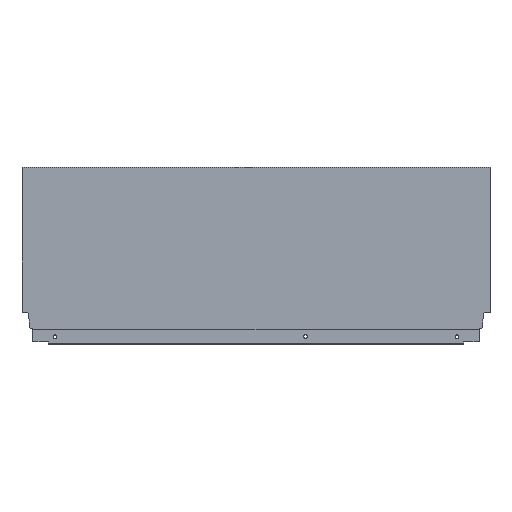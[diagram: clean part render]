
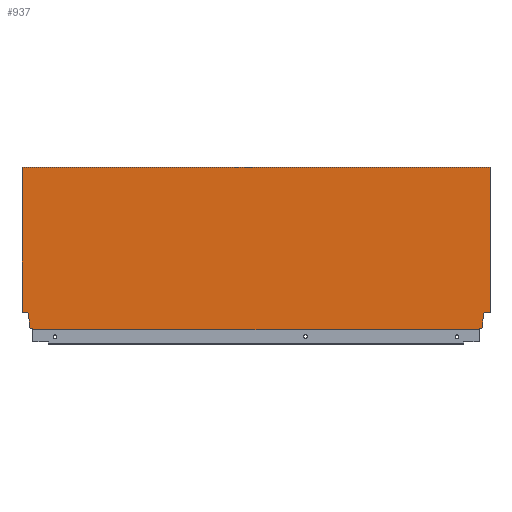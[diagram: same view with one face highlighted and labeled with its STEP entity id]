
A CAD part, top view. The second image highlights one B-rep face of the part: STEP entity #937.
In plain terms, the highlighted planar face has unit normal (0, 0, 1).
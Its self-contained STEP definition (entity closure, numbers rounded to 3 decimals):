
#62 = AXIS2_PLACEMENT_3D ( 'NONE', #815, #782, #804 ) ;
#81 = FACE_OUTER_BOUND ( 'NONE', #1449, .T. ) ;
#129 = VERTEX_POINT ( 'NONE', #135 ) ;
#132 = VERTEX_POINT ( 'NONE', #275 ) ;
#135 = CARTESIAN_POINT ( 'NONE',  ( -13.004, 1.146, 7.5 ) ) ;
#143 = VERTEX_POINT ( 'NONE', #393 ) ;
#149 = VERTEX_POINT ( 'NONE', #391 ) ;
#158 = CARTESIAN_POINT ( 'NONE',  ( -558.1, 10.765, 7.5 ) ) ;
#171 = VERTEX_POINT ( 'NONE', #272 ) ;
#177 = VERTEX_POINT ( 'NONE', #199 ) ;
#178 = VERTEX_POINT ( 'NONE', #209 ) ;
#180 = VERTEX_POINT ( 'NONE', #360 ) ;
#195 = VERTEX_POINT ( 'NONE', #334 ) ;
#196 = VERTEX_POINT ( 'NONE', #158 ) ;
#199 = CARTESIAN_POINT ( 'NONE',  ( 0., 196.7, 7.5 ) ) ;
#207 = VERTEX_POINT ( 'NONE', #346 ) ;
#209 = CARTESIAN_POINT ( 'NONE',  ( -567., 196.7, 7.5 ) ) ;
#210 = VERTEX_POINT ( 'NONE', #270 ) ;
#211 = VERTEX_POINT ( 'NONE', #412 ) ;
#236 = VERTEX_POINT ( 'NONE', #410 ) ;
#270 = CARTESIAN_POINT ( 'NONE',  ( -8.9, 10.765, 7.5 ) ) ;
#272 = CARTESIAN_POINT ( 'NONE',  ( -559.94, 21.2, 7.5 ) ) ;
#275 = CARTESIAN_POINT ( 'NONE',  ( -8.9, 2.64, 7.5 ) ) ;
#311 = CARTESIAN_POINT ( 'NONE',  ( -567., 0., 7.5 ) ) ;
#313 = DIRECTION ( 'NONE',  ( 0., -1., 0. ) ) ;
#316 = CARTESIAN_POINT ( 'NONE',  ( -559.94, 21.2, 7.5 ) ) ;
#317 = DIRECTION ( 'NONE',  ( -0.174, 0.985, 0. ) ) ;
#334 = CARTESIAN_POINT ( 'NONE',  ( -553.996, 1.146, 7.5 ) ) ;
#335 = DIRECTION ( 'NONE',  ( 1., 0., 0. ) ) ;
#346 = CARTESIAN_POINT ( 'NONE',  ( -7.06, 21.2, 7.5 ) ) ;
#356 = CARTESIAN_POINT ( 'NONE',  ( -567., 196.7, 7.5 ) ) ;
#359 = DIRECTION ( 'NONE',  ( 1., 0., 0. ) ) ;
#360 = CARTESIAN_POINT ( 'NONE',  ( -558.1, 2.64, 7.5 ) ) ;
#361 = CARTESIAN_POINT ( 'NONE',  ( -572., 21.2, 7.5 ) ) ;
#362 = DIRECTION ( 'NONE',  ( -1., 0., 0. ) ) ;
#365 = CARTESIAN_POINT ( 'NONE',  ( 0., 21.2, 7.5 ) ) ;
#366 = DIRECTION ( 'NONE',  ( -1., 0., 0. ) ) ;
#391 = CARTESIAN_POINT ( 'NONE',  ( 0., 21.2, 7.5 ) ) ;
#393 = CARTESIAN_POINT ( 'NONE',  ( -13.004, 0., 7.5 ) ) ;
#401 = DIRECTION ( 'NONE',  ( 0., -1., 0. ) ) ;
#410 = CARTESIAN_POINT ( 'NONE',  ( -553.996, 0., 7.5 ) ) ;
#412 = CARTESIAN_POINT ( 'NONE',  ( -567., 21.2, 7.5 ) ) ;
#429 = DIRECTION ( 'NONE',  ( 0., 1., 0. ) ) ;
#449 = DIRECTION ( 'NONE',  ( -0.94, -0.342, 0. ) ) ;
#450 = CARTESIAN_POINT ( 'NONE',  ( -8.9, 2.64, 7.5 ) ) ;
#454 = DIRECTION ( 'NONE',  ( 0., -1., 0. ) ) ;
#455 = DIRECTION ( 'NONE',  ( 0., -1., 0. ) ) ;
#456 = CARTESIAN_POINT ( 'NONE',  ( -8.9, 10.765, 7.5 ) ) ;
#458 = DIRECTION ( 'NONE',  ( -0.174, -0.985, 0. ) ) ;
#459 = CARTESIAN_POINT ( 'NONE',  ( 0., 0., 7.5 ) ) ;
#472 = DIRECTION ( 'NONE',  ( -0.94, 0.342, 0. ) ) ;
#474 = CARTESIAN_POINT ( 'NONE',  ( -558.1, 2.64, 7.5 ) ) ;
#476 = CARTESIAN_POINT ( 'NONE',  ( -13.004, 1.146, 7.5 ) ) ;
#480 = CARTESIAN_POINT ( 'NONE',  ( -7.06, 21.2, 7.5 ) ) ;
#576 = CARTESIAN_POINT ( 'NONE',  ( -553.996, 1.146, 7.5 ) ) ;
#659 = PLANE ( 'NONE',  #62 ) ;
#734 = EDGE_CURVE ( 'NONE', #178, #211, #1192, .T. ) ;
#782 = DIRECTION ( 'NONE',  ( 0., 0., 1. ) ) ;
#804 = DIRECTION ( 'NONE',  ( 1., 0., 0. ) ) ;
#815 = CARTESIAN_POINT ( 'NONE',  ( -567., 0., 7.5 ) ) ;
#818 = EDGE_CURVE ( 'NONE', #236, #195, #1072, .T. ) ;
#846 = EDGE_CURVE ( 'NONE', #177, #149, #1026, .T. ) ;
#847 = EDGE_CURVE ( 'NONE', #210, #132, #1024, .T. ) ;
#852 = DIRECTION ( 'NONE',  ( 0., 1., 0. ) ) ;
#856 = EDGE_CURVE ( 'NONE', #132, #129, #1022, .T. ) ;
#857 = CARTESIAN_POINT ( 'NONE',  ( -567., 0., 7.5 ) ) ;
#860 = CARTESIAN_POINT ( 'NONE',  ( -558.1, 10.765, 7.5 ) ) ;
#866 = EDGE_CURVE ( 'NONE', #195, #180, #1017, .T. ) ;
#871 = EDGE_CURVE ( 'NONE', #207, #210, #1008, .T. ) ;
#873 = EDGE_CURVE ( 'NONE', #129, #143, #1019, .T. ) ;
#875 = EDGE_CURVE ( 'NONE', #196, #171, #1161, .T. ) ;
#878 = EDGE_CURVE ( 'NONE', #236, #143, #1029, .T. ) ;
#881 = EDGE_CURVE ( 'NONE', #178, #177, #1166, .T. ) ;
#882 = EDGE_CURVE ( 'NONE', #171, #211, #1113, .T. ) ;
#883 = EDGE_CURVE ( 'NONE', #149, #207, #1131, .T. ) ;
#894 = EDGE_CURVE ( 'NONE', #180, #196, #968, .T. ) ;
#937 = ADVANCED_FACE ( 'NONE', ( #81 ), #659, .T. ) ;
#962 = VECTOR ( 'NONE', #362, 1000. ) ;
#967 = VECTOR ( 'NONE', #852, 1000. ) ;
#968 = LINE ( 'NONE', #860, #967 ) ;
#999 = ORIENTED_EDGE ( 'NONE', *, *, #734, .T. ) ;
#1002 = ORIENTED_EDGE ( 'NONE', *, *, #894, .F. ) ;
#1003 = ORIENTED_EDGE ( 'NONE', *, *, #875, .F. ) ;
#1004 = ORIENTED_EDGE ( 'NONE', *, *, #882, .F. ) ;
#1008 = LINE ( 'NONE', #480, #1156 ) ;
#1016 = VECTOR ( 'NONE', #472, 1000. ) ;
#1017 = LINE ( 'NONE', #474, #1016 ) ;
#1019 = LINE ( 'NONE', #476, #1159 ) ;
#1020 = VECTOR ( 'NONE', #449, 1000. ) ;
#1022 = LINE ( 'NONE', #450, #1020 ) ;
#1023 = VECTOR ( 'NONE', #454, 1000. ) ;
#1024 = LINE ( 'NONE', #456, #1023 ) ;
#1025 = VECTOR ( 'NONE', #455, 1000. ) ;
#1026 = LINE ( 'NONE', #459, #1025 ) ;
#1029 = LINE ( 'NONE', #311, #1167 ) ;
#1071 = VECTOR ( 'NONE', #429, 1000. ) ;
#1072 = LINE ( 'NONE', #576, #1071 ) ;
#1113 = LINE ( 'NONE', #361, #962 ) ;
#1131 = LINE ( 'NONE', #365, #1286 ) ;
#1151 = ORIENTED_EDGE ( 'NONE', *, *, #878, .T. ) ;
#1152 = ORIENTED_EDGE ( 'NONE', *, *, #818, .F. ) ;
#1153 = ORIENTED_EDGE ( 'NONE', *, *, #866, .F. ) ;
#1156 = VECTOR ( 'NONE', #458, 1000. ) ;
#1158 = VECTOR ( 'NONE', #359, 1000. ) ;
#1159 = VECTOR ( 'NONE', #313, 1000. ) ;
#1160 = VECTOR ( 'NONE', #317, 1000. ) ;
#1161 = LINE ( 'NONE', #316, #1160 ) ;
#1166 = LINE ( 'NONE', #356, #1158 ) ;
#1167 = VECTOR ( 'NONE', #335, 1000. ) ;
#1191 = VECTOR ( 'NONE', #401, 1000. ) ;
#1192 = LINE ( 'NONE', #857, #1191 ) ;
#1263 = ORIENTED_EDGE ( 'NONE', *, *, #873, .F. ) ;
#1264 = ORIENTED_EDGE ( 'NONE', *, *, #856, .F. ) ;
#1265 = ORIENTED_EDGE ( 'NONE', *, *, #847, .F. ) ;
#1266 = ORIENTED_EDGE ( 'NONE', *, *, #871, .F. ) ;
#1267 = ORIENTED_EDGE ( 'NONE', *, *, #883, .F. ) ;
#1268 = ORIENTED_EDGE ( 'NONE', *, *, #846, .F. ) ;
#1269 = ORIENTED_EDGE ( 'NONE', *, *, #881, .F. ) ;
#1286 = VECTOR ( 'NONE', #366, 1000. ) ;
#1449 = EDGE_LOOP ( 'NONE', ( #999, #1004, #1003, #1002, #1153, #1152, #1151, #1263, #1264, #1265, #1266, #1267, #1268, #1269 ) ) ;
